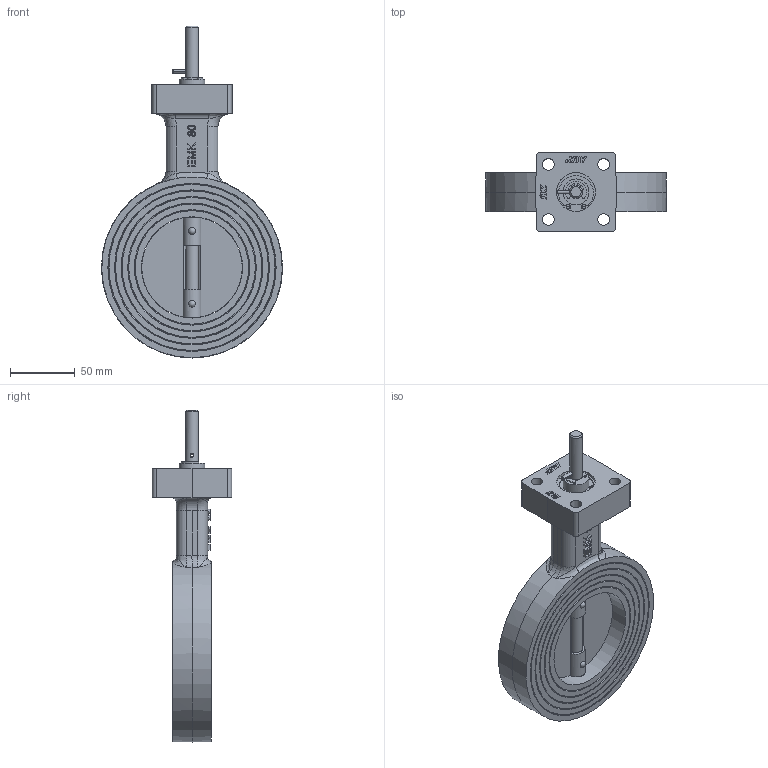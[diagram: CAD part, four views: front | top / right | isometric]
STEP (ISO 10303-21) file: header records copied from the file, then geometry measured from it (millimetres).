
FILE_DESCRIPTION((''),'2;1');
FILE_NAME('G:\CAD-Download\MRK\MRK Ro We\DN 80\MRK Ro We 30N-4.00.32.stp','2010-08-19T14:53:48',('da'),(''),'Autodesk Inventor 2008','Autodesk Inventor 2008','');
FILE_SCHEMA(('AUTOMOTIVE_DESIGN { 1 0 10303 214 1 1 1 1 }'));
Length unit declared in the file: millimetre
Products named in the file (1): Bauteil6
Bounding box: 139.58 x 61 x 255.81 mm (x, y, z)
Volume: 455476 mm3; surface area: 82289.5 mm2
Topology: 1 solids, 1 shells, 358 faces, 932 edges, 595 vertices
Faces by surface type: plane 175, cylinder 74, bspline 73, cone 28, sphere 4, torus 4
Full cylindrical faces by diameter (mm): 2 x2, 3 x4, 8 x2, 10 x2, 20 x1, 29.9 x1, 31.4 x1, 77.5 x1, 78 x1
Entity records: 13448 total; most frequent: CARTESIAN_POINT 5169, ORIENTED_EDGE 1708, DIRECTION 1517, EDGE_CURVE 854, VERTEX_POINT 571, AXIS2_PLACEMENT_3D 524, VECTOR 469, LINE 469
